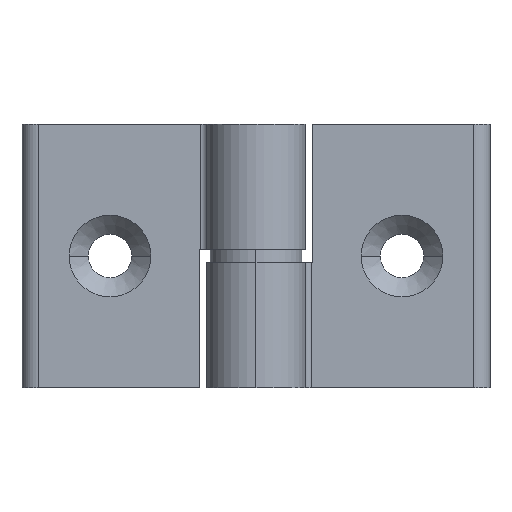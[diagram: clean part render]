
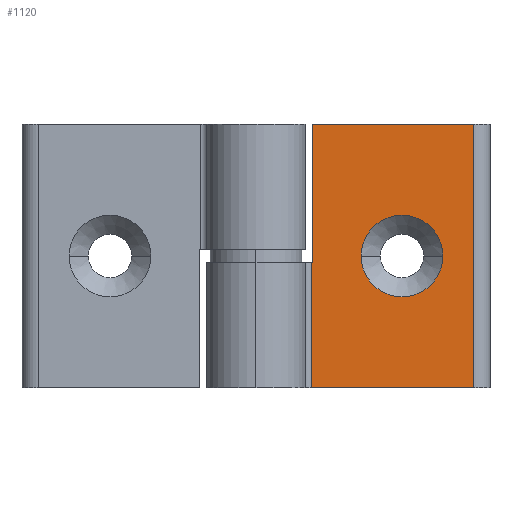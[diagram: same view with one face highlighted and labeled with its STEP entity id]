
A CAD part, top view. The second image highlights one B-rep face of the part: STEP entity #1120.
In plain terms, the highlighted planar face has unit normal (0, 0, 1).
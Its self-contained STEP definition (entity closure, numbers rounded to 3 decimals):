
#29 = LINE ( 'NONE', #760, #1032 ) ;
#34 = CARTESIAN_POINT ( 'NONE',  ( 8.367, 0., -2.5 ) ) ;
#46 = ORIENTED_EDGE ( 'NONE', *, *, #128, .F. ) ;
#65 = CARTESIAN_POINT ( 'NONE',  ( 22.15, 20., -2.5 ) ) ;
#76 = CARTESIAN_POINT ( 'NONE',  ( 33., 40., -2.5 ) ) ;
#99 = VECTOR ( 'NONE', #1015, 1000. ) ;
#128 = EDGE_CURVE ( 'NONE', #325, #933, #984, .T. ) ;
#131 = VERTEX_POINT ( 'NONE', #974 ) ;
#165 = CIRCLE ( 'NONE', #839, 6.2 ) ;
#186 = DIRECTION ( 'NONE',  ( 1., 0., 0. ) ) ;
#191 = LINE ( 'NONE', #365, #832 ) ;
#198 = EDGE_CURVE ( 'NONE', #131, #1155, #165, .T. ) ;
#219 = FACE_BOUND ( 'NONE', #1100, .T. ) ;
#289 = ORIENTED_EDGE ( 'NONE', *, *, #328, .T. ) ;
#299 = EDGE_CURVE ( 'NONE', #958, #582, #391, .T. ) ;
#301 = CARTESIAN_POINT ( 'NONE',  ( 33., 0., -2.5 ) ) ;
#325 = VERTEX_POINT ( 'NONE', #834 ) ;
#328 = EDGE_CURVE ( 'NONE', #582, #866, #484, .T. ) ;
#332 = EDGE_CURVE ( 'NONE', #1076, #933, #666, .T. ) ;
#334 = CARTESIAN_POINT ( 'NONE',  ( 8.5, 19., -2.5 ) ) ;
#337 = CIRCLE ( 'NONE', #921, 6.2 ) ;
#346 = EDGE_CURVE ( 'NONE', #1155, #131, #337, .T. ) ;
#365 = CARTESIAN_POINT ( 'NONE',  ( 35.5, 40., -2.5 ) ) ;
#367 = EDGE_CURVE ( 'NONE', #325, #958, #29, .T. ) ;
#386 = DIRECTION ( 'NONE',  ( 0., 1., 0. ) ) ;
#391 = LINE ( 'NONE', #755, #882 ) ;
#394 = DIRECTION ( 'NONE',  ( 0., 0., -1. ) ) ;
#397 = ORIENTED_EDGE ( 'NONE', *, *, #346, .T. ) ;
#416 = ORIENTED_EDGE ( 'NONE', *, *, #332, .T. ) ;
#429 = CARTESIAN_POINT ( 'NONE',  ( 28.35, 20., -2.5 ) ) ;
#484 = LINE ( 'NONE', #843, #939 ) ;
#505 = ORIENTED_EDGE ( 'NONE', *, *, #367, .T. ) ;
#518 = DIRECTION ( 'NONE',  ( 0., 0., -1. ) ) ;
#582 = VERTEX_POINT ( 'NONE', #301 ) ;
#590 = ORIENTED_EDGE ( 'NONE', *, *, #198, .T. ) ;
#601 = PLANE ( 'NONE',  #1068 ) ;
#666 = LINE ( 'NONE', #750, #99 ) ;
#673 = DIRECTION ( 'NONE',  ( 0., -1., 0. ) ) ;
#705 = DIRECTION ( 'NONE',  ( 1., 0., 0. ) ) ;
#733 = CARTESIAN_POINT ( 'NONE',  ( 7.071, 19., -2.5 ) ) ;
#750 = CARTESIAN_POINT ( 'NONE',  ( 8.5, 40., -2.5 ) ) ;
#755 = CARTESIAN_POINT ( 'NONE',  ( 7.071, 0., -2.5 ) ) ;
#760 = CARTESIAN_POINT ( 'NONE',  ( 8.367, 0., -2.5 ) ) ;
#777 = DIRECTION ( 'NONE',  ( 1., 0., 0. ) ) ;
#793 = CARTESIAN_POINT ( 'NONE',  ( 7.071, 0., -2.5 ) ) ;
#832 = VECTOR ( 'NONE', #705, 1000. ) ;
#834 = CARTESIAN_POINT ( 'NONE',  ( 8.367, 19., -2.5 ) ) ;
#839 = AXIS2_PLACEMENT_3D ( 'NONE', #65, #518, #968 ) ;
#843 = CARTESIAN_POINT ( 'NONE',  ( 33., 0., -2.5 ) ) ;
#857 = FACE_OUTER_BOUND ( 'NONE', #929, .T. ) ;
#866 = VERTEX_POINT ( 'NONE', #76 ) ;
#882 = VECTOR ( 'NONE', #186, 1000. ) ;
#892 = DIRECTION ( 'NONE',  ( 1., 0., 0. ) ) ;
#921 = AXIS2_PLACEMENT_3D ( 'NONE', #931, #394, #1080 ) ;
#929 = EDGE_LOOP ( 'NONE', ( #1095, #289, #1137, #416, #46, #505 ) ) ;
#931 = CARTESIAN_POINT ( 'NONE',  ( 22.15, 20., -2.5 ) ) ;
#933 = VERTEX_POINT ( 'NONE', #334 ) ;
#939 = VECTOR ( 'NONE', #386, 1000. ) ;
#958 = VERTEX_POINT ( 'NONE', #34 ) ;
#968 = DIRECTION ( 'NONE',  ( -1., 0., 0. ) ) ;
#974 = CARTESIAN_POINT ( 'NONE',  ( 15.95, 20., -2.5 ) ) ;
#984 = LINE ( 'NONE', #733, #1074 ) ;
#1015 = DIRECTION ( 'NONE',  ( 0., -1., 0. ) ) ;
#1026 = CARTESIAN_POINT ( 'NONE',  ( 8.5, 40., -2.5 ) ) ;
#1032 = VECTOR ( 'NONE', #673, 1000. ) ;
#1052 = DIRECTION ( 'NONE',  ( 0., 0., 1. ) ) ;
#1068 = AXIS2_PLACEMENT_3D ( 'NONE', #793, #1052, #777 ) ;
#1074 = VECTOR ( 'NONE', #892, 1000. ) ;
#1076 = VERTEX_POINT ( 'NONE', #1026 ) ;
#1080 = DIRECTION ( 'NONE',  ( -1., 0., 0. ) ) ;
#1083 = EDGE_CURVE ( 'NONE', #1076, #866, #191, .T. ) ;
#1095 = ORIENTED_EDGE ( 'NONE', *, *, #299, .T. ) ;
#1100 = EDGE_LOOP ( 'NONE', ( #397, #590 ) ) ;
#1120 = ADVANCED_FACE ( 'NONE', ( #219, #857 ), #601, .T. ) ;
#1137 = ORIENTED_EDGE ( 'NONE', *, *, #1083, .F. ) ;
#1155 = VERTEX_POINT ( 'NONE', #429 ) ;
